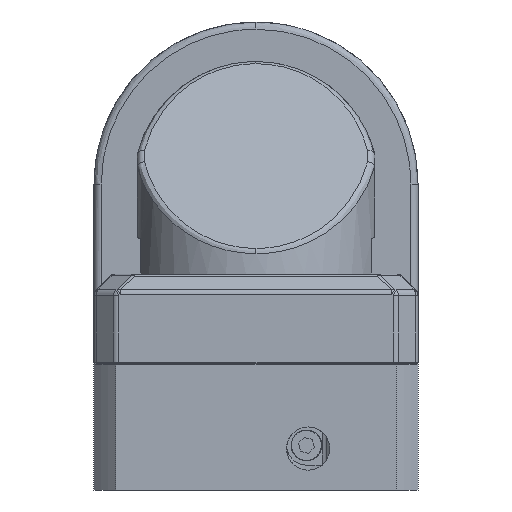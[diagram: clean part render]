
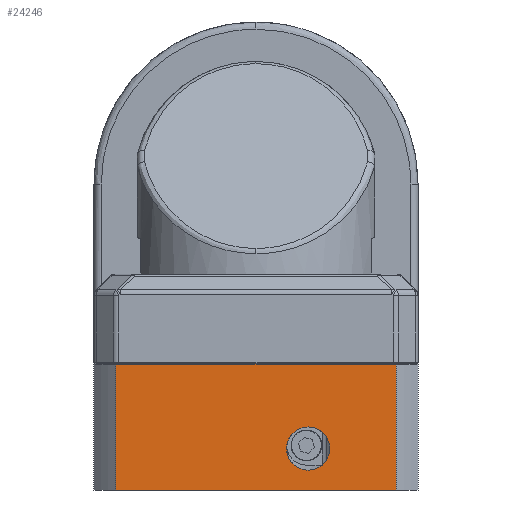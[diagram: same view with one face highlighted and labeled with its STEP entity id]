
A CAD part, front view. The second image highlights one B-rep face of the part: STEP entity #24246.
In plain terms, the highlighted planar face has unit normal (0, -1, 0) as drawn and (0, 0, 1) by its records, which use the part's own axes.
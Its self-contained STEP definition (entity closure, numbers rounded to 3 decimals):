
#757 = VERTEX_POINT ( 'NONE', #20547 ) ;
#1259 = CARTESIAN_POINT ( 'NONE',  ( 5.5, -14.5, 45. ) ) ;
#1559 = VECTOR ( 'NONE', #23062, 1000. ) ;
#2771 = CARTESIAN_POINT ( 'NONE',  ( 35., -38.926, 45. ) ) ;
#2949 = CARTESIAN_POINT ( 'NONE',  ( 35., 59.5, 45. ) ) ;
#3128 = EDGE_CURVE ( 'NONE', #20967, #26534, #25162, .T. ) ;
#4722 = AXIS2_PLACEMENT_3D ( 'NONE', #27475, #7437, #35569 ) ;
#5225 = EDGE_CURVE ( 'NONE', #27245, #45722, #50826, .T. ) ;
#6991 = DIRECTION ( 'NONE',  ( 0., 1., 0. ) ) ;
#7133 = CARTESIAN_POINT ( 'NONE',  ( 59., -38.926, 45. ) ) ;
#7437 = DIRECTION ( 'NONE',  ( 0., 0., 1. ) ) ;
#7448 = ORIENTED_EDGE ( 'NONE', *, *, #3128, .T. ) ;
#9414 = CARTESIAN_POINT ( 'NONE',  ( 11.5, -14.5, 45. ) ) ;
#10992 = LINE ( 'NONE', #2949, #19150 ) ;
#11033 = EDGE_LOOP ( 'NONE', ( #16943, #32331, #7448, #22108 ) ) ;
#11894 = FACE_BOUND ( 'NONE', #51746, .T. ) ;
#12275 = LINE ( 'NONE', #43158, #1559 ) ;
#13459 = DIRECTION ( 'NONE',  ( 1., 0., 0. ) ) ;
#13591 = EDGE_CURVE ( 'NONE', #28407, #20967, #10992, .T. ) ;
#16943 = ORIENTED_EDGE ( 'NONE', *, *, #22589, .T. ) ;
#18533 = AXIS2_PLACEMENT_3D ( 'NONE', #9414, #37557, #13459 ) ;
#18819 = EDGE_CURVE ( 'NONE', #26534, #757, #12275, .T. ) ;
#19150 = VECTOR ( 'NONE', #6991, 1000. ) ;
#20547 = CARTESIAN_POINT ( 'NONE',  ( 0., -38.926, 45. ) ) ;
#20810 = VECTOR ( 'NONE', #47411, 1000. ) ;
#20967 = VERTEX_POINT ( 'NONE', #30985 ) ;
#22108 = ORIENTED_EDGE ( 'NONE', *, *, #18819, .T. ) ;
#22589 = EDGE_CURVE ( 'NONE', #757, #28407, #43487, .T. ) ;
#22697 = AXIS2_PLACEMENT_3D ( 'NONE', #28210, #28119, #28048 ) ;
#22966 = CARTESIAN_POINT ( 'NONE',  ( 0., 38.926, 45. ) ) ;
#23062 = DIRECTION ( 'NONE',  ( 0., -1., 0. ) ) ;
#23393 = PLANE ( 'NONE',  #4722 ) ;
#24246 = ADVANCED_FACE ( 'NONE', ( #32047, #11894 ), #23393, .T. ) ;
#25162 = LINE ( 'NONE', #29034, #34675 ) ;
#25294 = DIRECTION ( 'NONE',  ( -1., 0., 0. ) ) ;
#26534 = VERTEX_POINT ( 'NONE', #22966 ) ;
#27245 = VERTEX_POINT ( 'NONE', #1259 ) ;
#27475 = CARTESIAN_POINT ( 'NONE',  ( 59., -45., 45. ) ) ;
#28048 = DIRECTION ( 'NONE',  ( 1., 0., 0. ) ) ;
#28119 = DIRECTION ( 'NONE',  ( 0., 0., -1. ) ) ;
#28210 = CARTESIAN_POINT ( 'NONE',  ( 11.5, -14.5, 45. ) ) ;
#28407 = VERTEX_POINT ( 'NONE', #2771 ) ;
#29034 = CARTESIAN_POINT ( 'NONE',  ( 59., 38.926, 45. ) ) ;
#30728 = ORIENTED_EDGE ( 'NONE', *, *, #5225, .T. ) ;
#30985 = CARTESIAN_POINT ( 'NONE',  ( 35., 38.926, 45. ) ) ;
#32047 = FACE_OUTER_BOUND ( 'NONE', #11033, .T. ) ;
#32331 = ORIENTED_EDGE ( 'NONE', *, *, #13591, .T. ) ;
#33232 = EDGE_CURVE ( 'NONE', #45722, #27245, #48571, .T. ) ;
#34675 = VECTOR ( 'NONE', #25294, 1000. ) ;
#35238 = ORIENTED_EDGE ( 'NONE', *, *, #33232, .T. ) ;
#35569 = DIRECTION ( 'NONE',  ( 1., 0., 0. ) ) ;
#37557 = DIRECTION ( 'NONE',  ( 0., 0., -1. ) ) ;
#38565 = CARTESIAN_POINT ( 'NONE',  ( 17.5, -14.5, 45. ) ) ;
#43158 = CARTESIAN_POINT ( 'NONE',  ( 0., -45., 45. ) ) ;
#43487 = LINE ( 'NONE', #7133, #20810 ) ;
#45722 = VERTEX_POINT ( 'NONE', #38565 ) ;
#47411 = DIRECTION ( 'NONE',  ( 1., 0., 0. ) ) ;
#48571 = CIRCLE ( 'NONE', #18533, 6. ) ;
#50826 = CIRCLE ( 'NONE', #22697, 6. ) ;
#51746 = EDGE_LOOP ( 'NONE', ( #35238, #30728 ) ) ;
